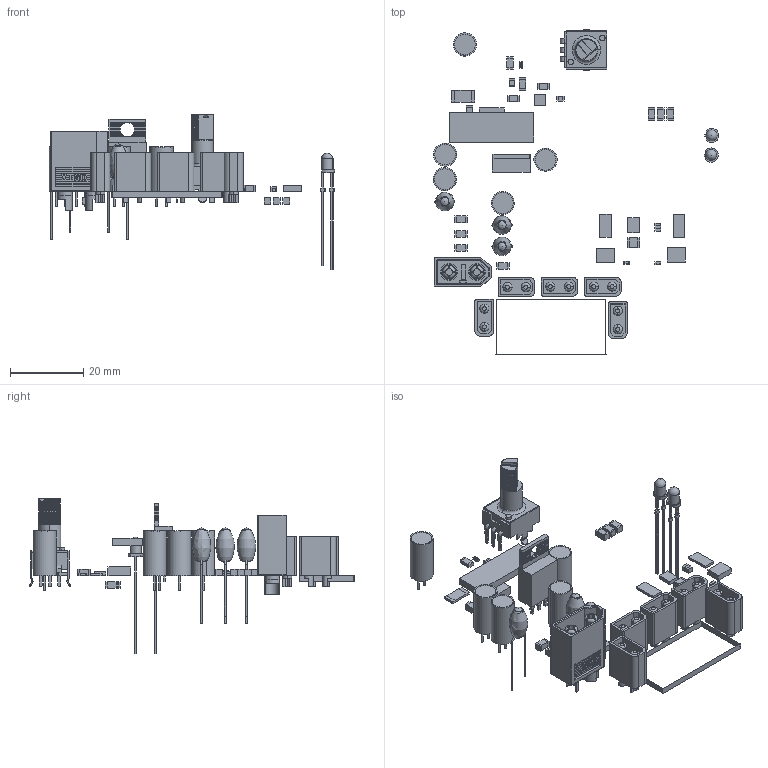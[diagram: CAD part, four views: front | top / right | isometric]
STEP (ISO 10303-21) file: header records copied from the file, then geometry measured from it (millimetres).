
FILE_DESCRIPTION(('Open CASCADE Model'),'2;1');
FILE_NAME('Open CASCADE Shape Model','2019-03-06T00:42:14',('Author'),( 'Open CASCADE'),'Open CASCADE STEP processor 6.5','Open CASCADE 6.5' ,'Unknown');
FILE_SCHEMA(('AUTOMOTIVE_DESIGN { 1 0 10303 214 1 1 1 1 }'));
Length unit declared in the file: millimetre
Products named in the file (142): PCB; Board; HS; 1334480992; Extruded; Rgate; 1439292016; 1439291760; Cout8; 1434478016; 1365327536; Cout7; 1434475968; 1440897568; Cout6; Cout5; Cin8; Cin7; Cin6; Cin5; LS_Ccomp; 1439292144; 1439292272; LS_Cpo1; C0603-ROUND; LS_Cpo2; LS_Cvcc; 1439292400; 1434472896; LS_D1; WL-TMRW_3mm; LS_D2; LS_M1; 1434472640; LS_M2; LS_Rsense1; 1439292528; LS_Rsense2; LS_; 1439292656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
Assembly tree (211 placements, depth 4):
  PCB
    Board
    HS
      1334480992
        Extruded
    Rgate
      1439292016  x2
        Extruded
      1439291760
        Extruded
    Cout8
      1434478016
        Extruded
      1365327536  x2
        Extruded
    Cout7
      1434475968
        Extruded
      1440897568  x2
        Extruded
    Cout6
      1434475968
        Extruded
      1440897568  x2
        Extruded
    Cout5
      1434475968
        Extruded
      1440897568  x2
        Extruded
    Cin8
      1434478016
        Extruded
      1365327536  x2
        Extruded
    Cin7
      1434478016
        Extruded
      1365327536  x2
        Extruded
    Cin6
      1434478016
        Extruded
      1365327536  x2
        Extruded
    Cin5
      1434475968
        Extruded
      1440897568  x2
        Extruded
    LS_Ccomp
      1439292144  x2
        Extruded
      1439292272
        Extruded
    LS_Cpo1
      C0603-ROUND
    LS_Cpo2
      C0603-ROUND
    LS_Cvcc
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Bounding box: 77.74 x 88.62 x 42.23 mm (x, y, z)
Volume: 8446.3 mm3; surface area: 13348.3 mm2
Topology: 137 solids, 137 shells, 1922 faces, 4570 edges, 2973 vertices
Faces by surface type: plane 1420, cylinder 288, bspline 113, cone 33, sphere 26, revolution 26, torus 16
Full cylindrical faces by diameter (mm): 0.5 x15, 0.55 x10, 3 x2, 3.5 x2, 4 x4, 4.5 x2, 5.67 x5, 6 x2
Entity records: 100162 total; most frequent: CARTESIAN_POINT 34965, DIRECTION 9798, LINE 6015, VECTOR 6015, ORIENTED_EDGE 5982, PCURVE 5982, DEFINITIONAL_REPRESENTATION 5982, EDGE_CURVE 2991
